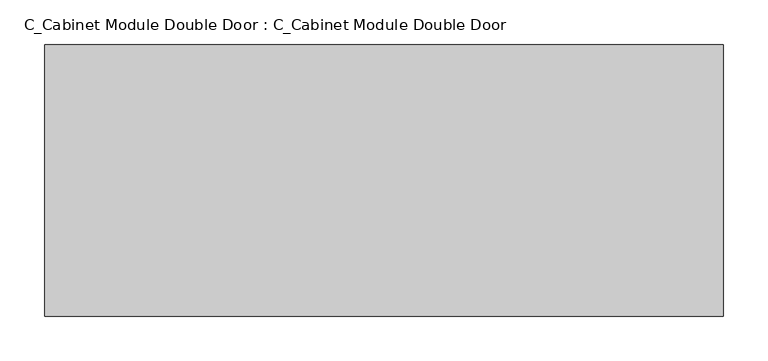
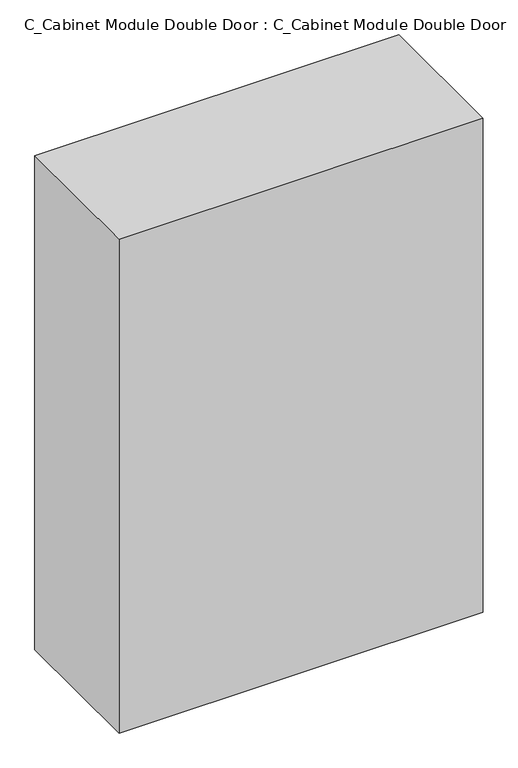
"""IFC4 building model written with IfcOpenShell, lengths in millimetres: furniture geometry, C_Cabinet Module Double Door : C_Cabinet Module Double Door."""

from ifc_helpers import new_model, si_unit, origin, origin_with_axes, place, context, project, spatial, polyline, outline, extrude, source, transform, mapped, element, save


def c_cabinet_module_double_door_c_cabinet_module_double_door_e2b38130(model_context):
    return source(origin(), model_context, "Body", "SweptSolid", [
        extrude(outline(polyline([(381.0, 0.0), (-381.0, 0.0), (-381.0, 304.8), (381.0, 304.8), (381.0, 0.0)])), origin_with_axes(), (0.0, 0.0, 1.0), 1092.2),
    ])


if __name__ == "__main__":
    model = new_model("IFC4")
    model_context = context("Model", 3, world=origin())
    ifc_project = project(units=[si_unit("LENGTHUNIT", "METRE", prefix="MILLI")], contexts=[model_context])
    site = spatial("IfcSite", under=ifc_project)
    building = spatial("IfcBuilding", under=site)
    placement = place(None, origin())
    c_cabinet_module_double_door_c_cabinet_module_double_door_shape = c_cabinet_module_double_door_c_cabinet_module_double_door_e2b38130(model_context)
    element("IfcFurniture", 1, ObjectType="C_Cabinet Module Double Door : C_Cabinet Module Double Door", at=placement, inside=building, context=model_context, shape_type="MappedRepresentation", body=[
        mapped(c_cabinet_module_double_door_c_cabinet_module_double_door_shape, transform((0.0, 0.0, 0.0), x_axis=(1.0, 0.0, 0.0), y_axis=(0.0, 1.0, 0.0), z_axis=(0.0, 0.0, 1.0))),
    ])
    save(model, "model.ifc")
